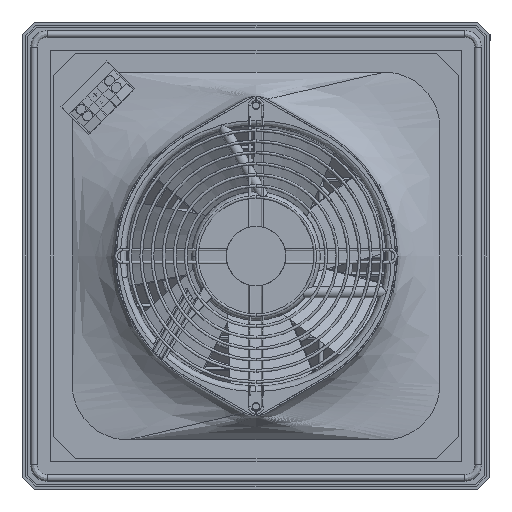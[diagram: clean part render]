
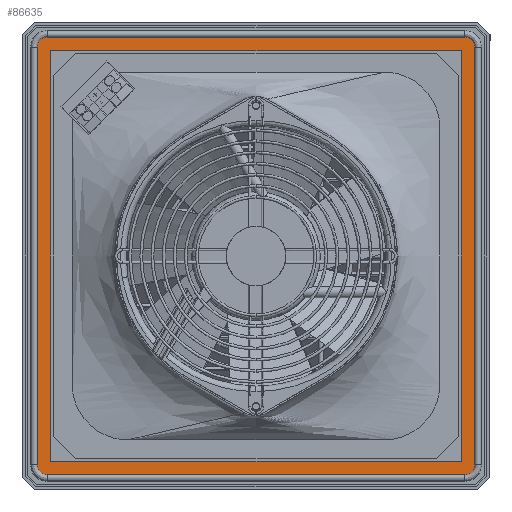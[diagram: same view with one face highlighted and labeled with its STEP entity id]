
A CAD part, front view. The second image highlights one B-rep face of the part: STEP entity #86635.
In plain terms, the highlighted planar face has unit normal (0, -1, 0).
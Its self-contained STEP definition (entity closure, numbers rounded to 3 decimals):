
#13818 = VERTEX_POINT ( 'NONE', #83137 ) ;
#45254 = VERTEX_POINT ( 'NONE', #78452 ) ;
#46056 = EDGE_CURVE ( 'NONE', #45254, #46604, #78900, .T. ) ;
#46330 = EDGE_CURVE ( 'NONE', #46362, #45254, #79000, .T. ) ;
#46362 = VERTEX_POINT ( 'NONE', #79012 ) ;
#46570 = EDGE_CURVE ( 'NONE', #13818, #46362, #79124, .T. ) ;
#46604 = VERTEX_POINT ( 'NONE', #78991 ) ;
#78452 = CARTESIAN_POINT ( 'NONE',  ( -110.5, 30.5, 110.5 ) ) ;
#78892 = DIRECTION ( 'NONE',  ( 1., 0., 0. ) ) ;
#78894 = VECTOR ( 'NONE', #78892, 1000. ) ;
#78899 = CARTESIAN_POINT ( 'NONE',  ( -123., 30.5, 110.5 ) ) ;
#78900 = LINE ( 'NONE', #78899, #78894 ) ;
#78907 = CARTESIAN_POINT ( 'NONE',  ( -110.5, 30.5, -123. ) ) ;
#78991 = CARTESIAN_POINT ( 'NONE',  ( 110.5, 30.5, 110.5 ) ) ;
#78997 = DIRECTION ( 'NONE',  ( 0., 0., 1. ) ) ;
#78998 = VECTOR ( 'NONE', #78997, 1000. ) ;
#79000 = LINE ( 'NONE', #78907, #78998 ) ;
#79012 = CARTESIAN_POINT ( 'NONE',  ( -110.5, 30.5, -110.5 ) ) ;
#79121 = DIRECTION ( 'NONE',  ( -1., 0., 0. ) ) ;
#79122 = VECTOR ( 'NONE', #79121, 1000. ) ;
#79123 = CARTESIAN_POINT ( 'NONE',  ( -123., 30.5, -110.5 ) ) ;
#79124 = LINE ( 'NONE', #79123, #79122 ) ;
#83137 = CARTESIAN_POINT ( 'NONE',  ( 110.5, 30.5, -110.5 ) ) ;
#85873 = EDGE_CURVE ( 'NONE', #46604, #13818, #122139, .T. ) ;
#86631 = ORIENTED_EDGE ( 'NONE', *, *, #46056, .T. ) ;
#86635 = ADVANCED_FACE ( 'NONE', ( #122520, #122514 ), #122468, .T. ) ;
#86640 = EDGE_CURVE ( 'NONE', #87029, #86993, #122600, .T. ) ;
#86649 = VERTEX_POINT ( 'NONE', #122592 ) ;
#86653 = ORIENTED_EDGE ( 'NONE', *, *, #86640, .F. ) ;
#86718 = ORIENTED_EDGE ( 'NONE', *, *, #86916, .F. ) ;
#86739 = ORIENTED_EDGE ( 'NONE', *, *, #85873, .T. ) ;
#86762 = VERTEX_POINT ( 'NONE', #122621 ) ;
#86806 = EDGE_LOOP ( 'NONE', ( #86631, #86739, #86885, #86811 ) ) ;
#86811 = ORIENTED_EDGE ( 'NONE', *, *, #46330, .T. ) ;
#86859 = EDGE_CURVE ( 'NONE', #86649, #86762, #122609, .T. ) ;
#86878 = EDGE_CURVE ( 'NONE', #86762, #87029, #122647, .T. ) ;
#86885 = ORIENTED_EDGE ( 'NONE', *, *, #46570, .T. ) ;
#86897 = ORIENTED_EDGE ( 'NONE', *, *, #86859, .F. ) ;
#86916 = EDGE_CURVE ( 'NONE', #86992, #86649, #122676, .T. ) ;
#86917 = EDGE_CURVE ( 'NONE', #86993, #86978, #122642, .T. ) ;
#86935 = ORIENTED_EDGE ( 'NONE', *, *, #86878, .F. ) ;
#86944 = VERTEX_POINT ( 'NONE', #122656 ) ;
#86961 = ORIENTED_EDGE ( 'NONE', *, *, #87278, .F. ) ;
#86967 = VERTEX_POINT ( 'NONE', #122637 ) ;
#86978 = VERTEX_POINT ( 'NONE', #122678 ) ;
#86992 = VERTEX_POINT ( 'NONE', #122677 ) ;
#86993 = VERTEX_POINT ( 'NONE', #122684 ) ;
#87000 = ORIENTED_EDGE ( 'NONE', *, *, #87338, .F. ) ;
#87029 = VERTEX_POINT ( 'NONE', #122682 ) ;
#87068 = EDGE_LOOP ( 'NONE', ( #86653, #86935, #86897, #86718, #87310, #86961, #87000, #87197 ) ) ;
#87197 = ORIENTED_EDGE ( 'NONE', *, *, #86917, .F. ) ;
#87259 = EDGE_CURVE ( 'NONE', #86967, #86992, #122726, .T. ) ;
#87278 = EDGE_CURVE ( 'NONE', #86944, #86967, #122742, .T. ) ;
#87310 = ORIENTED_EDGE ( 'NONE', *, *, #87259, .F. ) ;
#87338 = EDGE_CURVE ( 'NONE', #86978, #86944, #122778, .T. ) ;
#122136 = DIRECTION ( 'NONE',  ( 0., 0., -1. ) ) ;
#122137 = VECTOR ( 'NONE', #122136, 1000. ) ;
#122138 = CARTESIAN_POINT ( 'NONE',  ( 110.5, 30.5, -123. ) ) ;
#122139 = LINE ( 'NONE', #122138, #122137 ) ;
#122436 = DIRECTION ( 'NONE',  ( 0., 0., -1. ) ) ;
#122468 = PLANE ( 'NONE',  #122561 ) ;
#122514 = FACE_OUTER_BOUND ( 'NONE', #87068, .T. ) ;
#122518 = CARTESIAN_POINT ( 'NONE',  ( -123., 30.5, -123. ) ) ;
#122520 = FACE_BOUND ( 'NONE', #86806, .T. ) ;
#122561 = AXIS2_PLACEMENT_3D ( 'NONE', #122518, #122603, #122436 ) ;
#122586 = DIRECTION ( 'NONE',  ( 0., 0., -1. ) ) ;
#122587 = DIRECTION ( 'NONE',  ( 0., 1., 0. ) ) ;
#122588 = CARTESIAN_POINT ( 'NONE',  ( -112.5, 30.5, -112.5 ) ) ;
#122589 = AXIS2_PLACEMENT_3D ( 'NONE', #122588, #122587, #122586 ) ;
#122592 = CARTESIAN_POINT ( 'NONE',  ( 117.75, 30.5, -112.5 ) ) ;
#122600 = CIRCLE ( 'NONE', #122589, 5.25 ) ;
#122603 = DIRECTION ( 'NONE',  ( 0., -1., 0. ) ) ;
#122608 = CARTESIAN_POINT ( 'NONE',  ( -112.5, 30.5, -117.75 ) ) ;
#122609 = CIRCLE ( 'NONE', #122617, 5.25 ) ;
#122611 = DIRECTION ( 'NONE',  ( -1., 0., 0. ) ) ;
#122617 = AXIS2_PLACEMENT_3D ( 'NONE', #122622, #122650, #122649 ) ;
#122621 = CARTESIAN_POINT ( 'NONE',  ( 112.5, 30.5, -117.75 ) ) ;
#122622 = CARTESIAN_POINT ( 'NONE',  ( 112.5, 30.5, -112.5 ) ) ;
#122637 = CARTESIAN_POINT ( 'NONE',  ( 112.5, 30.5, 117.75 ) ) ;
#122638 = DIRECTION ( 'NONE',  ( 0., 0., -1. ) ) ;
#122639 = VECTOR ( 'NONE', #122638, 1000. ) ;
#122640 = CARTESIAN_POINT ( 'NONE',  ( 117.75, 30.5, 112.5 ) ) ;
#122642 = LINE ( 'NONE', #122651, #122658 ) ;
#122646 = VECTOR ( 'NONE', #122611, 1000. ) ;
#122647 = LINE ( 'NONE', #122608, #122646 ) ;
#122649 = DIRECTION ( 'NONE',  ( 0., 0., -1. ) ) ;
#122650 = DIRECTION ( 'NONE',  ( 0., 1., 0. ) ) ;
#122651 = CARTESIAN_POINT ( 'NONE',  ( -117.75, 30.5, 112.5 ) ) ;
#122656 = CARTESIAN_POINT ( 'NONE',  ( -112.5, 30.5, 117.75 ) ) ;
#122657 = DIRECTION ( 'NONE',  ( 0., 0., 1. ) ) ;
#122658 = VECTOR ( 'NONE', #122657, 1000. ) ;
#122676 = LINE ( 'NONE', #122640, #122639 ) ;
#122677 = CARTESIAN_POINT ( 'NONE',  ( 117.75, 30.5, 112.5 ) ) ;
#122678 = CARTESIAN_POINT ( 'NONE',  ( -117.75, 30.5, 112.5 ) ) ;
#122682 = CARTESIAN_POINT ( 'NONE',  ( -112.5, 30.5, -117.75 ) ) ;
#122684 = CARTESIAN_POINT ( 'NONE',  ( -117.75, 30.5, -112.5 ) ) ;
#122723 = CARTESIAN_POINT ( 'NONE',  ( 112.5, 30.5, 112.5 ) ) ;
#122724 = AXIS2_PLACEMENT_3D ( 'NONE', #122723, #122725, #122768 ) ;
#122725 = DIRECTION ( 'NONE',  ( 0., 1., 0. ) ) ;
#122726 = CIRCLE ( 'NONE', #122724, 5.25 ) ;
#122741 = CARTESIAN_POINT ( 'NONE',  ( 112.5, 30.5, 117.75 ) ) ;
#122742 = LINE ( 'NONE', #122741, #122800 ) ;
#122768 = DIRECTION ( 'NONE',  ( 0., 0., -1. ) ) ;
#122778 = CIRCLE ( 'NONE', #122809, 5.25 ) ;
#122797 = CARTESIAN_POINT ( 'NONE',  ( -112.5, 30.5, 112.5 ) ) ;
#122799 = DIRECTION ( 'NONE',  ( 1., 0., 0. ) ) ;
#122800 = VECTOR ( 'NONE', #122799, 1000. ) ;
#122805 = DIRECTION ( 'NONE',  ( 0., 0., -1. ) ) ;
#122806 = DIRECTION ( 'NONE',  ( 0., 1., 0. ) ) ;
#122809 = AXIS2_PLACEMENT_3D ( 'NONE', #122797, #122806, #122805 ) ;
